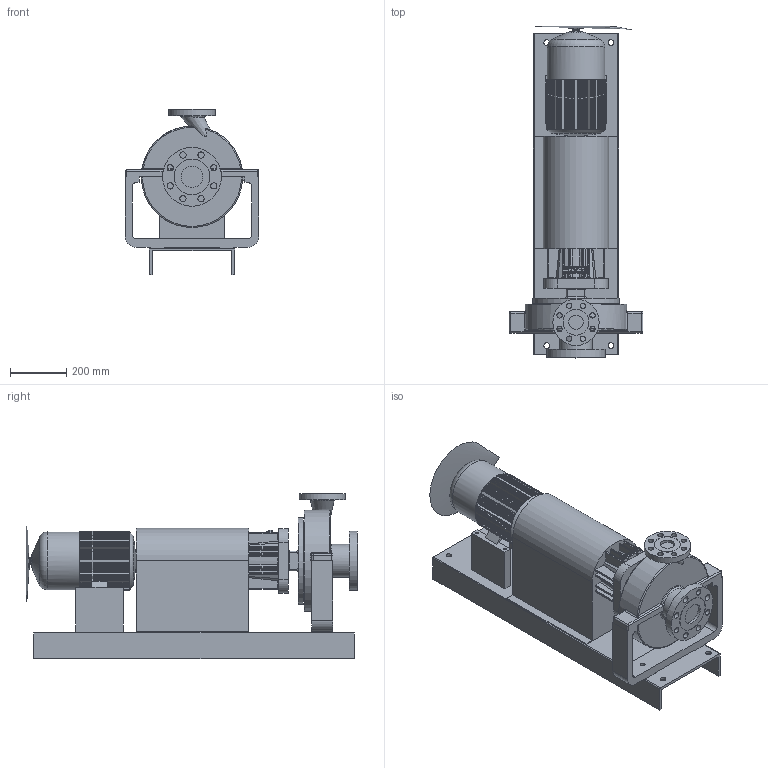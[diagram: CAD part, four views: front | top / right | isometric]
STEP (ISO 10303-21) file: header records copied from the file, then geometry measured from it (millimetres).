
FILE_DESCRIPTION(/* description */ ('Unknown'),/* implementation_level */ '2;1');
FILE_NAME(/* name */ 'CTP 2x3x10 184T',/* time_stamp */ '2016-02-18T13:43:37+01:00',/* author */ ('Unknown'),/* organization */ ('Unknown'),/* preprocessor_version */ 'ST-DEVELOPER v16',/* originating_system */ 'DEX',/* authorisation */ $);
FILE_SCHEMA (('AUTOMOTIVE_DESIGN {1 0 10303 214 3 1 1}'));
Products named in the file (1): Maatschets3D CTP
Bounding box: 476.25 x 1182.54 x 590.55 mm (x, y, z)
Volume: 48078045.4 mm3; surface area: 3489752.3 mm2
Topology: 1 solids, 1 shells, 1419 faces, 3684 edges, 2211 vertices
Faces by surface type: plane 964, cylinder 261, bspline 139, sphere 31, torus 22, cone 2
Full cylindrical faces by diameter (mm): 10.414 x4, 16 x2, 19.05 x8, 20 x4, 22.225 x8, 38.575 x1, 50.8 x1, 76.2 x1, 92.075 x1, 117 x1, 127 x1, 165.1 x1, 205.74 x1, 209.55 x1, 235 x1, 280 x1, 309 x1, 361 x1
Entity records: 58998 total; most frequent: CARTESIAN_POINT 15351, ORIENTED_EDGE 7092, DIRECTION 6851, EDGE_CURVE 3546, AXIS2_PLACEMENT_3D 2286, LINE 2279, VECTOR 2279, VERTEX_POINT 2181
